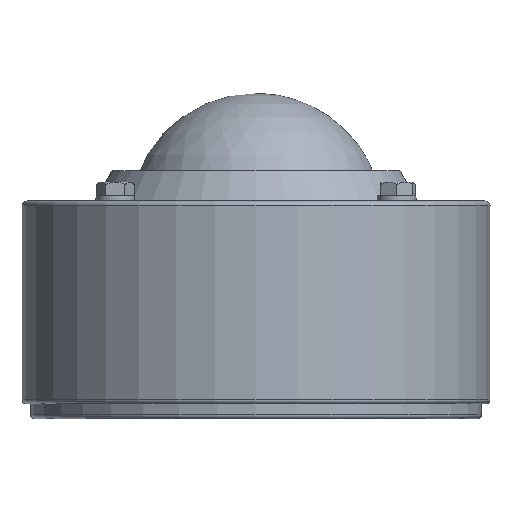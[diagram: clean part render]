
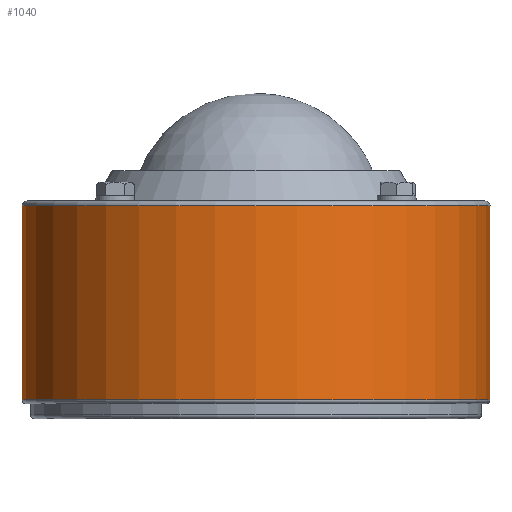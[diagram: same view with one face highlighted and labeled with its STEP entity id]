
A CAD part, front view. The second image highlights one B-rep face of the part: STEP entity #1040.
In plain terms, the highlighted cylindrical face has radius 93.5 mm (diameter 187 mm), a full revolution.
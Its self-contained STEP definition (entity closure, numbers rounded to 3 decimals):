
#30=CYLINDRICAL_SURFACE('',#1150,93.5);
#213=FACE_BOUND('',#429,.T.);
#314=FACE_OUTER_BOUND('',#428,.T.);
#428=EDGE_LOOP('',(#902));
#429=EDGE_LOOP('',(#903));
#472=CIRCLE('',#1149,93.5);
#473=CIRCLE('',#1151,93.5);
#562=VERTEX_POINT('',#1927);
#563=VERTEX_POINT('',#1930);
#676=EDGE_CURVE('',#562,#562,#472,.T.);
#677=EDGE_CURVE('',#563,#563,#473,.T.);
#902=ORIENTED_EDGE('',*,*,#677,.F.);
#903=ORIENTED_EDGE('',*,*,#676,.T.);
#1040=ADVANCED_FACE('',(#314,#213),#30,.T.);
#1149=AXIS2_PLACEMENT_3D('',#1928,#1413,#1414);
#1150=AXIS2_PLACEMENT_3D('',#1929,#1415,#1416);
#1151=AXIS2_PLACEMENT_3D('',#1931,#1417,#1418);
#1413=DIRECTION('center_axis',(0.,0.,-1.));
#1414=DIRECTION('ref_axis',(0.,1.,0.));
#1415=DIRECTION('center_axis',(0.,0.,-1.));
#1416=DIRECTION('ref_axis',(0.,1.,0.));
#1417=DIRECTION('center_axis',(0.,0.,-1.));
#1418=DIRECTION('ref_axis',(0.,1.,0.));
#1927=CARTESIAN_POINT('',(0.,93.5,85.));
#1928=CARTESIAN_POINT('Origin',(0.,0.,85.));
#1929=CARTESIAN_POINT('Origin',(0.,0.,46.25));
#1930=CARTESIAN_POINT('',(0.,93.5,7.5));
#1931=CARTESIAN_POINT('Origin',(0.,0.,7.5));
